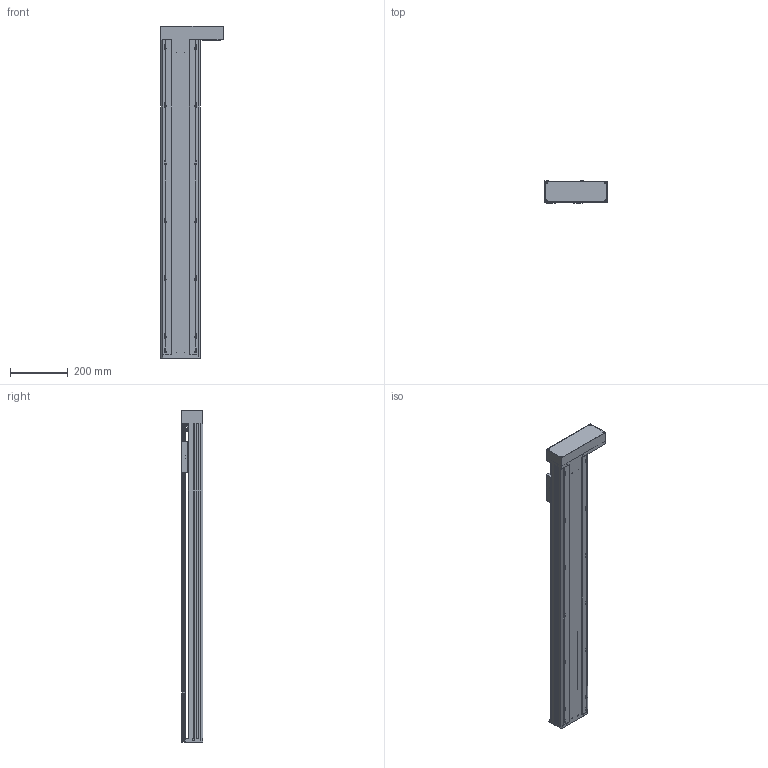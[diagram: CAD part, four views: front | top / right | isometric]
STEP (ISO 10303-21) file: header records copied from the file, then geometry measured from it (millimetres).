
FILE_DESCRIPTION(/* description */ (''),/* implementation_level */ '2;1');
FILE_NAME(/* name */ 'TKA136-FR-900_asm1.stp',/* time_stamp */ '2016-05-07T14:50:24+08:00',/* author */ (''),/* organization */ (''),/* preprocessor_version */ 'ST-DEVELOPER v15',/* originating_system */ 'SIEMENS PLM Software NX 8.5',/* authorisation */ '');
FILE_SCHEMA (('AUTOMOTIVE_DESIGN { 1 0 10303 214 3 1 1 1 }'));
Length unit declared in the file: millimetre
Products named in the file (3): 100-02; 100-01; TKA136-FR-900_asm1
Assembly tree (2 placements, depth 2):
  TKA136-FR-900_asm1
    100-01
    100-02
Bounding box: 216 x 75 x 1150 mm (x, y, z)
Volume: 3522587.4 mm3; surface area: 1374109.3 mm2
Topology: 2 solids, 12 shells, 913 faces, 2624 edges, 1717 vertices
Faces by surface type: cylinder 441, plane 419, cone 53
Full cylindrical faces by diameter (mm): 2.5 x4, 3 x2, 3.3 x15, 4 x4, 4.2 x14, 4.5 x26, 5 x18, 5.5 x26, 6.6 x18, 8 x20, 10 x9, 10.5 x14, 11 x4, 11.6 x1, 12 x9, 15 x3, 16 x5, 17 x1, 24 x5, 26 x1, 28 x1, 46 x2, 50 x1
Entity records: 30969 total; most frequent: CARTESIAN_POINT 8384, DIRECTION 4667, ORIENTED_EDGE 4410, EDGE_CURVE 2205, AXIS2_PLACEMENT_3D 1781, VERTEX_POINT 1579, EDGE_LOOP 1349, LINE 1105
